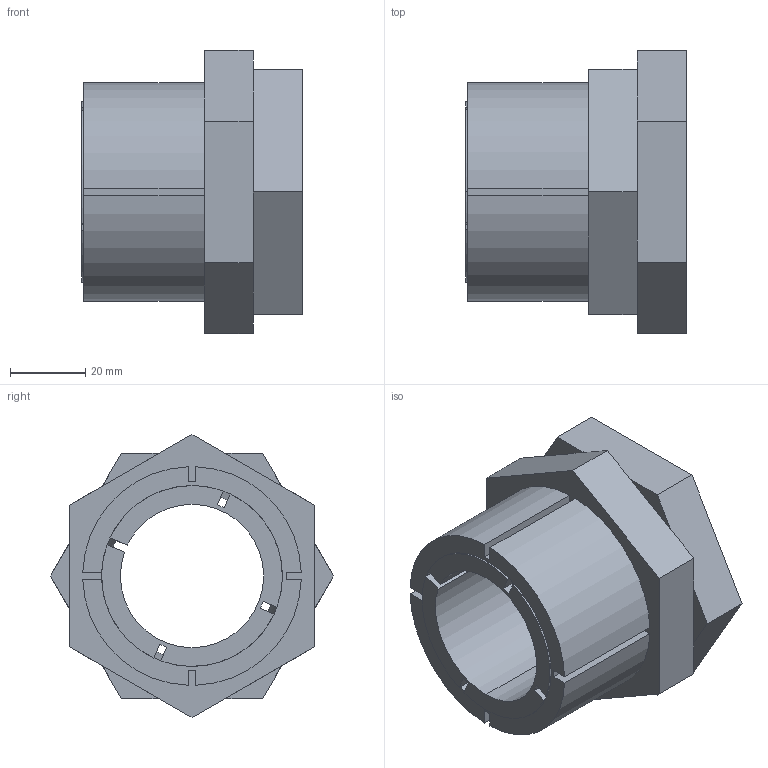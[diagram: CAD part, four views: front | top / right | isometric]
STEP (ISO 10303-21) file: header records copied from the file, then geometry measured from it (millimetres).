
FILE_DESCRIPTION (( 'STEP AP203' ), '1' );
FILE_NAME ('KBS 59 - 38 x 58.STEP', '2015-07-07T21:08:12', ( '' ), ( '' ), 'SwSTEP 2.0', 'SolidWorks 2010', '' );
FILE_SCHEMA (( 'CONFIG_CONTROL_DESIGN' ));
Length unit declared in the file: millimetre
Products named in the file (1): KBS 59 - 38 x 58
Bounding box: 58.5 x 75.06 x 75.06 mm (x, y, z)
Volume: 111002.1 mm3; surface area: 45346 mm2
Topology: 3 solids, 3 shells, 78 faces, 204 edges, 132 vertices
Faces by surface type: plane 56, cylinder 14, cone 8
Entity records: 2469 total; most frequent: CARTESIAN_POINT 451, ORIENTED_EDGE 408, DIRECTION 396, EDGE_CURVE 204, LINE 150, VECTOR 150, VERTEX_POINT 132, AXIS2_PLACEMENT_3D 123
